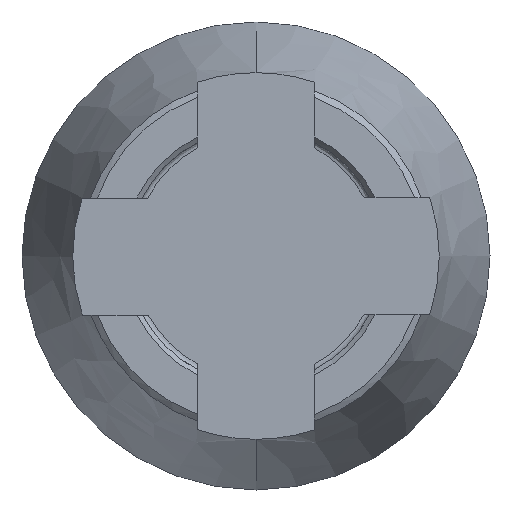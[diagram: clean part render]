
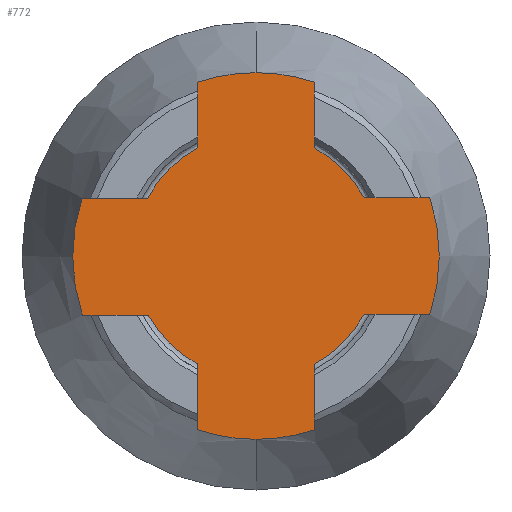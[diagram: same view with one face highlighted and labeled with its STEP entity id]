
A CAD part, left-side view. The second image highlights one B-rep face of the part: STEP entity #772.
In plain terms, the highlighted free-form (B-spline) face has degree [1, 1] with [2, 2] control points.
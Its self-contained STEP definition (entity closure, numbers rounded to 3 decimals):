
#25=DIRECTION('',(0.,1.,0.));
#26=VECTOR('',#25,6.738);
#27=CARTESIAN_POINT('',(-24.,-17.818,6.));
#28=LINE('',#27,#26);
#29=CARTESIAN_POINT('',(-24.,0.,0.));
#30=DIRECTION('',(-1.,0.,0.));
#31=DIRECTION('',(0.,-0.948,-0.319));
#32=AXIS2_PLACEMENT_3D('',#29,#30,#31);
#34=DIRECTION('',(0.,-1.,0.));
#35=VECTOR('',#34,6.738);
#36=CARTESIAN_POINT('',(-24.,-11.08,-6.));
#37=LINE('',#36,#35);
#38=DIRECTION('',(0.,0.,1.));
#39=VECTOR('',#38,6.734);
#40=CARTESIAN_POINT('',(-24.,-5.978,-17.826));
#41=LINE('',#40,#39);
#42=CARTESIAN_POINT('',(-24.,0.,0.));
#43=DIRECTION('',(-1.,0.,0.));
#44=DIRECTION('',(0.,0.,-1.));
#45=AXIS2_PLACEMENT_3D('',#42,#43,#44);
#47=CARTESIAN_POINT('',(-24.,0.,0.));
#48=DIRECTION('',(-1.,0.,0.));
#49=DIRECTION('',(0.,0.32,-0.947));
#50=AXIS2_PLACEMENT_3D('',#47,#48,#49);
#52=DIRECTION('',(0.,0.,-1.));
#53=VECTOR('',#52,6.743);
#54=CARTESIAN_POINT('',(-24.,6.022,-11.068));
#55=LINE('',#54,#53);
#56=DIRECTION('',(0.,-1.,0.));
#57=VECTOR('',#56,6.751);
#58=CARTESIAN_POINT('',(-24.,17.798,-6.06));
#59=LINE('',#58,#57);
#60=CARTESIAN_POINT('',(-24.,0.,0.));
#61=DIRECTION('',(-1.,0.,0.));
#62=DIRECTION('',(0.,0.949,0.316));
#63=AXIS2_PLACEMENT_3D('',#60,#61,#62);
#65=DIRECTION('',(0.,1.,0.));
#66=VECTOR('',#65,6.726);
#67=CARTESIAN_POINT('',(-24.,11.112,5.94));
#68=LINE('',#67,#66);
#69=DIRECTION('',(0.,0.,-1.));
#70=VECTOR('',#69,6.738);
#71=CARTESIAN_POINT('',(-24.,6.,17.818));
#72=LINE('',#71,#70);
#73=CARTESIAN_POINT('',(-24.,0.,0.));
#74=DIRECTION('',(-1.,0.,0.));
#75=DIRECTION('',(0.,0.,1.));
#76=AXIS2_PLACEMENT_3D('',#73,#74,#75);
#78=CARTESIAN_POINT('',(-24.,0.,0.));
#79=DIRECTION('',(-1.,0.,0.));
#80=DIRECTION('',(0.,-0.319,0.948));
#81=AXIS2_PLACEMENT_3D('',#78,#79,#80);
#83=DIRECTION('',(0.,0.,1.));
#84=VECTOR('',#83,6.738);
#85=CARTESIAN_POINT('',(-24.,-6.,11.08));
#86=LINE('',#85,#84);
#97=CARTESIAN_POINT('',(-24.,0.,0.));
#98=DIRECTION('',(-1.,0.,0.));
#99=DIRECTION('',(0.,-0.474,-0.88));
#100=AXIS2_PLACEMENT_3D('',#97,#98,#99);
#127=CARTESIAN_POINT('',(-24.,0.,0.));
#128=DIRECTION('',(-1.,0.,0.));
#129=DIRECTION('',(0.,-0.879,0.476));
#130=AXIS2_PLACEMENT_3D('',#127,#128,#129);
#304=CARTESIAN_POINT('',(-24.,0.,0.));
#305=DIRECTION('',(-1.,0.,0.));
#306=DIRECTION('',(0.,0.476,0.879));
#307=AXIS2_PLACEMENT_3D('',#304,#305,#306);
#334=CARTESIAN_POINT('',(-24.,0.,0.));
#335=DIRECTION('',(-1.,0.,0.));
#336=DIRECTION('',(0.,0.877,-0.481));
#337=AXIS2_PLACEMENT_3D('',#334,#335,#336);
#645=CARTESIAN_POINT('',(-24.,0.,18.801));
#646=CARTESIAN_POINT('',(-24.,6.,17.818));
#647=VERTEX_POINT('',#645);
#648=VERTEX_POINT('',#646);
#649=CARTESIAN_POINT('',(-24.,17.838,5.94));
#650=CARTESIAN_POINT('',(-24.,17.798,-6.06));
#651=VERTEX_POINT('',#649);
#652=VERTEX_POINT('',#650);
#653=CARTESIAN_POINT('',(-24.,6.022,-17.811));
#654=CARTESIAN_POINT('',(-24.,0.,-18.801));
#655=VERTEX_POINT('',#653);
#656=VERTEX_POINT('',#654);
#661=CARTESIAN_POINT('',(-24.,-5.978,-17.826));
#662=VERTEX_POINT('',#661);
#663=CARTESIAN_POINT('',(-24.,-17.818,-6.));
#664=CARTESIAN_POINT('',(-24.,-17.818,6.));
#665=VERTEX_POINT('',#663);
#666=VERTEX_POINT('',#664);
#667=CARTESIAN_POINT('',(-24.,-6.,17.818));
#668=VERTEX_POINT('',#667);
#673=CARTESIAN_POINT('',(-24.,6.,11.08));
#674=VERTEX_POINT('',#673);
#675=CARTESIAN_POINT('',(-24.,11.112,5.94));
#676=VERTEX_POINT('',#675);
#677=CARTESIAN_POINT('',(-24.,11.047,-6.06));
#678=VERTEX_POINT('',#677);
#679=CARTESIAN_POINT('',(-24.,6.022,-11.068));
#680=VERTEX_POINT('',#679);
#681=CARTESIAN_POINT('',(-24.,-5.978,-11.092));
#682=VERTEX_POINT('',#681);
#683=CARTESIAN_POINT('',(-24.,-11.08,-6.));
#684=VERTEX_POINT('',#683);
#685=CARTESIAN_POINT('',(-24.,-11.08,6.));
#686=VERTEX_POINT('',#685);
#687=CARTESIAN_POINT('',(-24.,-6.,11.08));
#688=VERTEX_POINT('',#687);
#729=CARTESIAN_POINT('',(-24.,19.564,19.553));
#730=CARTESIAN_POINT('',(-24.,-19.566,19.553));
#731=CARTESIAN_POINT('',(-24.,19.564,-19.553));
#732=CARTESIAN_POINT('',(-24.,-19.566,-19.553));
#733=B_SPLINE_SURFACE_WITH_KNOTS('',1,1,((#729,#730),(#731,#732)),.UNSPECIFIED.,
.F.,.F.,.F.,(2,2),(2,2),(-19.553,19.553),(-19.564,
19.566),.UNSPECIFIED.);
#735=ORIENTED_EDGE('',*,*,#734,.F.);
#737=ORIENTED_EDGE('',*,*,#736,.F.);
#739=ORIENTED_EDGE('',*,*,#738,.F.);
#741=ORIENTED_EDGE('',*,*,#740,.F.);
#743=ORIENTED_EDGE('',*,*,#742,.F.);
#745=ORIENTED_EDGE('',*,*,#744,.F.);
#747=ORIENTED_EDGE('',*,*,#746,.F.);
#749=ORIENTED_EDGE('',*,*,#748,.F.);
#751=ORIENTED_EDGE('',*,*,#750,.F.);
#753=ORIENTED_EDGE('',*,*,#752,.F.);
#755=ORIENTED_EDGE('',*,*,#754,.F.);
#757=ORIENTED_EDGE('',*,*,#756,.F.);
#759=ORIENTED_EDGE('',*,*,#758,.F.);
#761=ORIENTED_EDGE('',*,*,#760,.F.);
#763=ORIENTED_EDGE('',*,*,#762,.F.);
#765=ORIENTED_EDGE('',*,*,#764,.F.);
#767=ORIENTED_EDGE('',*,*,#766,.F.);
#769=ORIENTED_EDGE('',*,*,#768,.F.);
#770=EDGE_LOOP('',(#735,#737,#739,#741,#743,#745,#747,#749,#751,#753,#755,#757,
#759,#761,#763,#765,#767,#769));
#771=FACE_OUTER_BOUND('',#770,.F.);
#772=ADVANCED_FACE('',(#771),#733,.T.);
#33=CIRCLE('',#32,18.801);
#46=CIRCLE('',#45,18.801);
#51=CIRCLE('',#50,18.801);
#64=CIRCLE('',#63,18.801);
#77=CIRCLE('',#76,18.801);
#82=CIRCLE('',#81,18.801);
#101=CIRCLE('',#100,12.6);
#131=CIRCLE('',#130,12.6);
#308=CIRCLE('',#307,12.6);
#338=CIRCLE('',#337,12.6);
#734=EDGE_CURVE('',#686,#688,#131,.T.);
#736=EDGE_CURVE('',#666,#686,#28,.T.);
#738=EDGE_CURVE('',#665,#666,#33,.T.);
#740=EDGE_CURVE('',#684,#665,#37,.T.);
#742=EDGE_CURVE('',#682,#684,#101,.T.);
#744=EDGE_CURVE('',#662,#682,#41,.T.);
#746=EDGE_CURVE('',#656,#662,#46,.T.);
#748=EDGE_CURVE('',#655,#656,#51,.T.);
#750=EDGE_CURVE('',#680,#655,#55,.T.);
#752=EDGE_CURVE('',#678,#680,#338,.T.);
#754=EDGE_CURVE('',#652,#678,#59,.T.);
#756=EDGE_CURVE('',#651,#652,#64,.T.);
#758=EDGE_CURVE('',#676,#651,#68,.T.);
#760=EDGE_CURVE('',#674,#676,#308,.T.);
#762=EDGE_CURVE('',#648,#674,#72,.T.);
#764=EDGE_CURVE('',#647,#648,#77,.T.);
#766=EDGE_CURVE('',#668,#647,#82,.T.);
#768=EDGE_CURVE('',#688,#668,#86,.T.);
